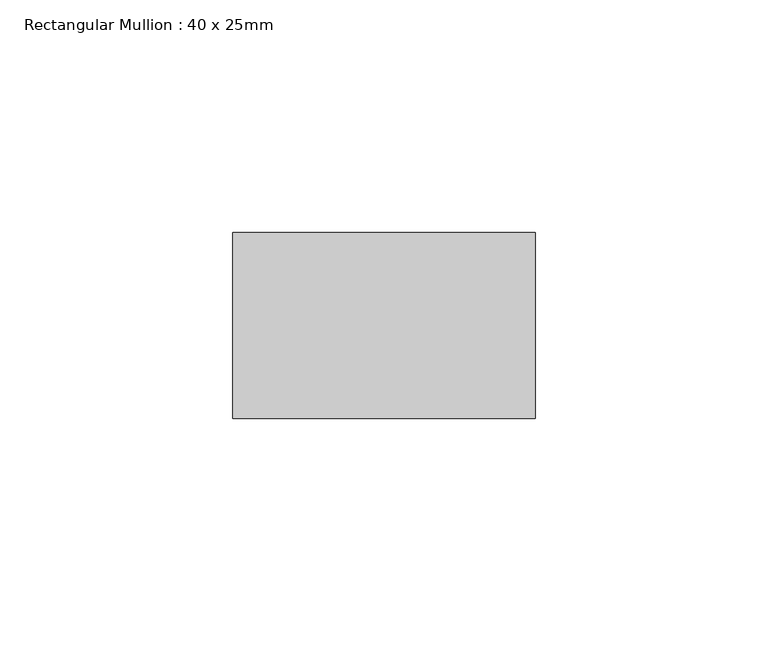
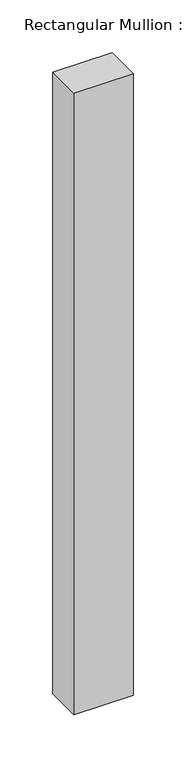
"""IFC4 building model written with IfcOpenShell, lengths in millimetres: member geometry, Rectangular Mullion : 40 x 25mm."""

from ifc_helpers import new_model, si_unit, frame, origin, place, context, project, spatial, polyline, outline, extrude, source, transform, mapped, element, save


def rectangular_mullion_40_x_25mm_414cb339(model_context):
    return source(origin(), model_context, "Body", "SweptSolid", [
        extrude(outline(polyline([(0.0, -20.0), (0.0, -60.0), (-65.0, -60.0), (-65.0, -20.0), (0.0, -20.0)])), frame((0.0, 0.0, -720.0), z_axis=(0.0, 0.0, 1.0), x_axis=(1.0, 0.0, 0.0)), (0.0, 0.0, 1.0), 720.0),
    ])


if __name__ == "__main__":
    model = new_model("IFC4")
    model_context = context("Model", 3, world=origin())
    ifc_project = project(units=[si_unit("LENGTHUNIT", "METRE", prefix="MILLI")], contexts=[model_context])
    site = spatial("IfcSite", under=ifc_project)
    building = spatial("IfcBuilding", under=site)
    placement = place(None, origin())
    rectangular_mullion_40_x_25mm_shape = rectangular_mullion_40_x_25mm_414cb339(model_context)
    element("IfcMember", 1, ObjectType="Rectangular Mullion : 40 x 25mm", at=placement, inside=building, context=model_context, shape_type="MappedRepresentation", body=[
        mapped(rectangular_mullion_40_x_25mm_shape, transform((0.0, 0.0, 0.0), x_axis=(1.0, 0.0, 0.0), y_axis=(0.0, 1.0, 0.0), z_axis=(0.0, 0.0, 1.0))),
    ])
    save(model, "model.ifc")
